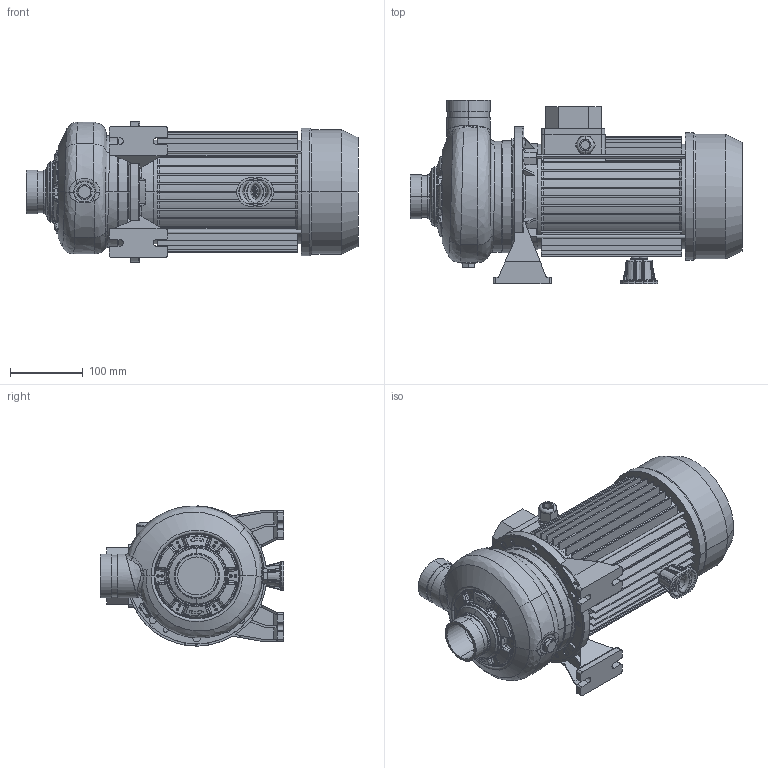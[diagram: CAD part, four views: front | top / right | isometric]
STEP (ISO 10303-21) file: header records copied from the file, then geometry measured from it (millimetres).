
FILE_DESCRIPTION((''),'2;1');
FILE_NAME('DWC_V_500_3_IE3_ASM','2016-10-26T',('rosa'),('"Ebara Pumps Europe +39.444.706811"'),'PRO/ENGINEER BY PARAMETRIC TECHNOLOGY CORPORATION, 2012130','PRO/ENGINEER BY PARAMETRIC TECHNOLOGY CORPORATION, 2012130','');
FILE_SCHEMA(('AUTOMOTIVE_DESIGN { 1 0 10303 214 1 1 1 1 }'));
Length unit declared in the file: millimetre
Products named in the file (12): MEC_90X160_IE3; 80598; 251420991; 10054; 76006; 40032; 62074; 10189; 20105_ASM; 72012; 360610016; DWC_V_500_3_IE3_ASM
Assembly tree (15 placements, depth 3):
  DWC_V_500_3_IE3_ASM
    MEC_90X160_IE3
    80598
    20105_ASM
      251420991
      10054
      76006  x2
      40032  x2
      62074
      10189
    72012  x2
    360610016  x2
Bounding box: 457 x 253 x 192.92 mm (x, y, z)
Volume: 3472547.2 mm3; surface area: 832281.5 mm2
Topology: 14 solids, 14 shells, 1789 faces, 4297 edges, 2592 vertices
Faces by surface type: plane 526, bspline 506, cylinder 306, torus 233, cone 172, sphere 42, extrusion 4
Entity records: 89535 total; most frequent: CARTESIAN_POINT 41385, ORIENTED_EDGE 7672, DIRECTION 6575, EDGE_CURVE 3836, PRESENTATION_STYLE_ASSIGNMENT 3833, STYLED_ITEM 3833, CURVE_STYLE 3824, AXIS2_PLACEMENT_3D 2713
